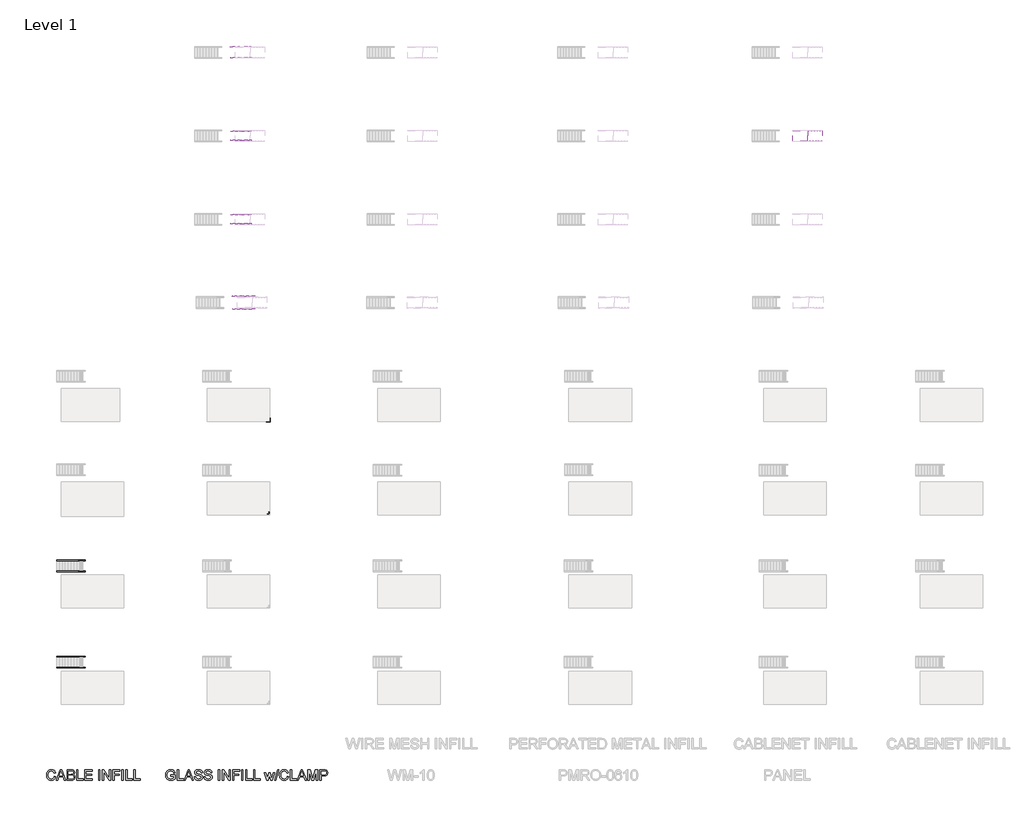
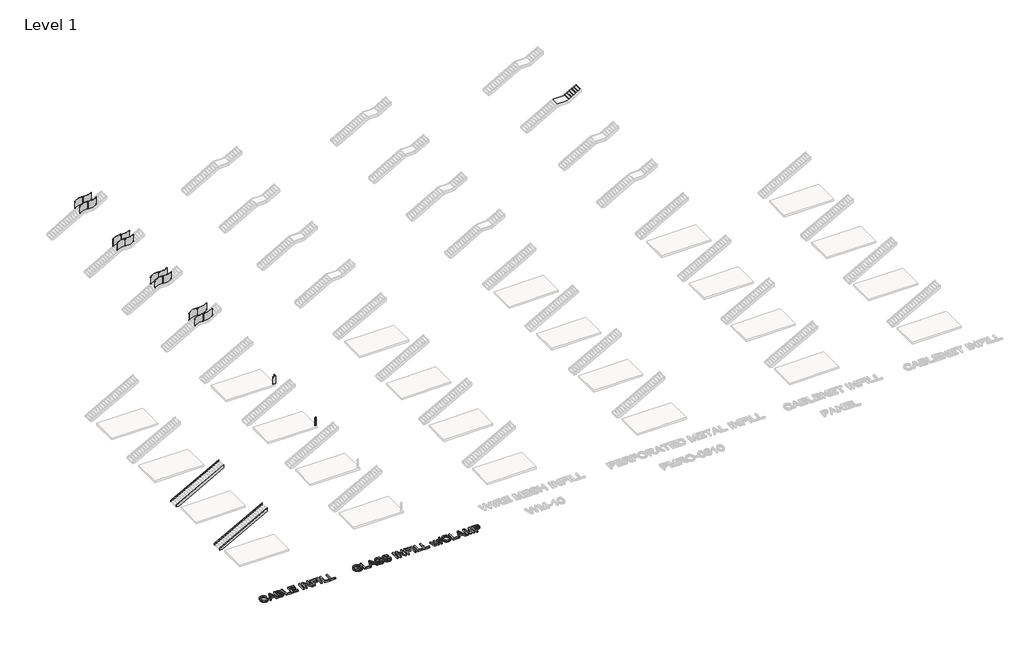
# One storey, part 2 of 8: 18 railings, 4 members, 2 proxies, 1 slab, 1 stair flight.
"""IFC4 building model written with IfcOpenShell, lengths in millimetres."""

from ifc_helpers import new_model, si_unit, frame, origin, origin_with_axes, place, context, project, spatial, polyline, outline, extrude, transform, mapped, element, save
from components import baluster_corner_panel_viva_fascia_glass_309fbe8c, baluster_corner_panel_viva_fascia_glass_9397f638, baluster_corner_panel_viva_standard_glass_66f1dce7, baluster_corner_panel_viva_standard_glass_c882a37e, baluster_landing_panel_viva_beacon_lower_standard_glass_8b22f319, baluster_landing_panel_viva_beacon_lower_standard_glass_e261c89c, baluster_landing_panel_viva_beacon_lower_standard_glass_253f4b5c, baluster_landing_panel_viva_beacon_lower_standard_glass_00d717b1, baluster_landing_panel_viva_beacon_lower_standard_glass_9d3ff82e, baluster_landing_panel_viva_beacon_lower_standard_glass_8f8fe665, baluster_landing_panel_viva_beacon_lower_standard_glass_b56cfc86, baluster_landing_panel_viva_beacon_lower_standard_glass_3bbf7e14, baluster_landing_panel_viva_beacon_upper_standard_glass_71d95eab, baluster_landing_panel_viva_beacon_upper_standard_glass_d6b748e2, baluster_landing_panel_viva_beacon_upper_standard_glass_bbd0a9c9, baluster_landing_panel_viva_beacon_upper_standard_glass_b4abdc5f, baluster_landing_panel_viva_beacon_upper_standard_glass_f7c4560a, baluster_landing_panel_viva_beacon_upper_standard_glass_00105ca9, baluster_landing_panel_viva_beacon_upper_standard_glass_00ee7de6, baluster_landing_panel_viva_beacon_upper_standard_glass_9e54e94a, non_monolithic_landing_eab2c951, stair_flight_992c4a2e

model = new_model("IFC4")

# Units and contexts
model_context = context("Model", 3, world=origin())
ifc_project = project(units=[si_unit("LENGTHUNIT", "METRE", prefix="MILLI")], contexts=[model_context])

# Site, building, storey
site = spatial("IfcSite", under=ifc_project)
building = spatial("IfcBuilding", under=site)
storey = spatial("IfcBuildingStorey", under=building, Name="Level 1", Elevation=0.0)

# Proxies
placement = place(None, origin())
element("IfcBuildingElementProxy", 1, Name="36\" Arial", ObjectType="36\" Arial", at=placement, inside=storey, context=model_context, shape_type="SweptSolid", body=[
    extrude(outline(polyline([(-14746.9317763, -19712.4132169), (-14632.7191161, -19741.8586684), (-14655.3190577, -19812.8860607), (-14685.419782, -19874.948763), (-14723.021289, -19928.0467753), (-14768.1235785, -19972.1800976), (-14819.7088865, -20006.8747027), (-14876.7594487, -20031.6565635), (-14939.2752652, -20046.5256799), (-15007.256336, -20051.4820521), (-15076.9034727, -20047.7316608), (-15139.7329837, -20036.4804869), (-15195.7448688, -20017.7285303), (-15244.939128, -19991.4757911), (-15287.9919472, -19958.1126447), (-15325.5795122, -19918.0294661), (-15357.7018229, -19871.2262556), (-15384.3588793, -19817.7030131), (-15405.292755, -19759.7741064), (-15420.2455233, -19699.7539035), (-15429.2171843, -19637.6424043), (-15432.207738, -19573.4396088), (-15428.826809, -19504.5523097), (-15418.6840221, -19440.2100944), (-15401.7793773, -19380.4129631), (-15378.1128745, -19325.1609157), (-15348.2143088, -19275.3671515), (-15312.6134753, -19231.9448699), (-15271.310374, -19194.894071), (-15224.3050048, -19164.2147548), (-15173.193724, -19140.1578767), (-15119.5728876, -19122.9743923), (-15063.4424958, -19112.6643017), (-15004.8025484, -19109.2276048), (-14939.4774239, -19113.6750949), (-14879.5757277, -19127.0175651), (-14825.0974599, -19149.2550154), (-14776.0426204, -19180.3874459), (-14733.2198438, -19219.59228), (-14697.4377646, -19266.0469411), (-14668.6963829, -19319.7514293), (-14646.9956986, -19380.7057446), (-14761.2083589, -19407.92048), (-14779.1935068, -19363.0064072), (-14800.8035682, -19324.6311206), (-14826.0385432, -19292.7946204), (-14854.8984317, -19267.4969065), (-14887.5505375, -19248.2221259), (-14924.1621642, -19234.4544255), (-14964.7333118, -19226.1938052), (-15009.2639804, -19223.4402651), (-15060.500739, -19226.4935577), (-15107.3597174, -19235.6534353), (-15149.8409156, -19250.9198981), (-15187.9443337, -19272.292946), (-15221.1889734, -19298.8105827), (-15249.0938366, -19329.5108119), (-15271.6589234, -19364.3936337), (-15288.8842336, -19403.459048), (-15301.6202279, -19444.936424), (-15310.7173667, -19487.0551309), (-15316.1756499, -19529.8151686), (-15317.9950777, -19573.2165372), (-15315.8410425, -19627.7575439), (-15309.3789371, -19678.729405), (-15298.6087613, -19726.1321204), (-15283.5305152, -19769.9656903), (-15263.9002142, -19809.358741), (-15239.4738738, -19843.4398992), (-15210.2514939, -19872.2091649), (-15176.2330746, -19895.666538), (-15139.0707399, -19913.8677866), (-15100.4166138, -19926.8686784), (-15060.2706964, -19934.6692135), (-15018.6329877, -19937.2693918), (-14968.9786433, -19933.7281301), (-14923.2977617, -19923.1043451), (-14881.5903431, -19905.3980367), (-14843.8563874, -19880.6092049), (-14810.9881811, -19848.8493855), (-14783.8780104, -19810.2301144), (-14762.5258755, -19764.7513916), (-14746.9317763, -19712.4132169)])), origin_with_axes(), (0.0, 0.0, 1.0), 152.4),
    extrude(outline(polyline([(-14582.0818624, -20037.2054696), (-14217.3597929, -19123.5041874), (-14120.1005744, -19123.5041874), (-13755.378505, -20037.2054696), (-13876.0602417, -20037.2054696), (-13980.6808231, -19751.6738189), (-14357.0026159, -19751.6738189), (-14461.4001256, -20037.2054696), (-14582.0818624, -20037.2054696)]), holes=[polyline([(-14315.0651547, -19637.4611586), (-14022.3952127, -19637.4611586), (-14104.7086339, -19412.8280553), (-14168.7301837, -19237.7168476), (-14225.6134422, -19393.1977543), (-14315.0651547, -19637.4611586)])]), origin_with_axes(), (0.0, 0.0, 1.0), 152.4),
    extrude(outline(polyline([(-13633.3583386, -20037.2054696), (-13633.3583386, -19123.5041874), (-13284.6974246, -19123.5041874), (-13234.1229098, -19125.1841954), (-13188.8045196, -19130.2242194), (-13148.7422541, -19138.6242594), (-13113.9361131, -19150.3843154), (-13083.5007814, -19165.6298652), (-13056.5509435, -19184.4863866), (-13033.0865994, -19206.9538795), (-13013.107749, -19233.032344), (-12997.1511585, -19261.2509017), (-12985.7535938, -19290.1386741), (-12978.915055, -19319.6956614), (-12976.6355421, -19349.9218635), (-12978.5525636, -19377.8406687), (-12984.3036284, -19404.9368974), (-12993.8887363, -19431.2105495), (-13007.3078873, -19456.6616251), (-13024.6029075, -19480.4954316), (-13045.8156227, -19501.9172764), (-13070.9460328, -19520.9271595), (-13099.994138, -19537.5250809), (-13065.5226045, -19552.2199227), (-13035.2754895, -19571.3204286), (-13009.2527929, -19594.8265987), (-12987.4545148, -19622.7384329), (-12970.2292045, -19654.2054707), (-12957.9254114, -19688.3772518), (-12950.5431356, -19725.253776), (-12948.082377, -19764.8350434), (-12949.762385, -19797.2710486), (-12954.802409, -19828.5498698), (-12963.202449, -19858.671507), (-12974.962505, -19887.6359604), (-13005.0492874, -19937.8828387), (-13022.4976692, -19958.1126447), (-13041.5493783, -19975.0800284), (-13086.2473505, -20002.0159243), (-13140.927777, -20021.4789216), (-13207.3752305, -20033.2738326), (-13287.3742838, -20037.2054696), (-13633.3583386, -20037.2054696)]), holes=[polyline([(-13519.1456784, -19494.6953333), (-13310.5737304, -19494.6953333), (-13237.6293165, -19492.2415456), (-13188.7766357, -19484.8801828), (-13146.1420757, -19467.954625), (-13129.3210827, -19456.3339887), (-13115.4976144, -19442.6081142), (-13104.7134966, -19426.8745952), (-13097.0105553, -19409.2310257), (-13092.3887906, -19389.6774056), (-13090.8482023, -19368.2137349), (-13096.5922961, -19328.3954539), (-13113.8245773, -19293.7078198), (-13126.5536006, -19278.9084132), (-13141.7642955, -19266.6325041), (-13159.456662, -19256.8800925), (-13179.6307, -19249.6511784), (-13237.7408523, -19240.7004303), (-13326.4118141, -19237.7168476), (-13519.1456784, -19237.7168476), (-13519.1456784, -19494.6953333)]), polyline([(-13519.1456784, -19922.9928093), (-13284.9204962, -19922.9928093), (-13200.1532874, -19918.5313773), (-13160.8090335, -19908.6325749), (-13128.4357673, -19893.6588936), (-13102.1133182, -19872.2161359), (-13080.921516, -19842.9101041), (-13066.951657, -19807.0513441), (-13062.2950373, -19765.9504014), (-13067.7602915, -19718.2130786), (-13084.1560543, -19677.1679038), (-13096.7805127, -19659.7195219), (-13112.7928712, -19645.073477), (-13132.1931296, -19633.2297692), (-13154.9812879, -19624.1883983), (-13214.7365933, -19612.7280947), (-13296.0740763, -19608.9079935), (-13519.1456784, -19608.9079935), (-13519.1456784, -19922.9928093)])]), origin_with_axes(), (0.0, 0.0, 1.0), 152.4),
    extrude(outline(polyline([(-12791.0399691, -20037.2054696), (-12791.0399691, -19123.5041874), (-12676.8273088, -19123.5041874), (-12676.8273088, -19922.9928093), (-12219.9766677, -19922.9928093), (-12219.9766677, -20037.2054696), (-12791.0399691, -20037.2054696)])), origin_with_axes(), (0.0, 0.0, 1.0), 152.4),
    extrude(outline(polyline([(-12091.4874249, -20037.2054696), (-12091.4874249, -19123.5041874), (-11434.7646283, -19123.5041874), (-11434.7646283, -19237.7168476), (-11977.2747646, -19237.7168476), (-11977.2747646, -19508.9719158), (-11463.3177934, -19508.9719158), (-11463.3177934, -19623.1845761), (-11977.2747646, -19623.1845761), (-11977.2747646, -19922.9928093), (-11420.4880458, -19922.9928093), (-11420.4880458, -20037.2054696), (-12091.4874249, -20037.2054696)])), origin_with_axes(), (0.0, 0.0, 1.0), 152.4),
    extrude(outline(polyline([(-10877.9779095, -20037.2054696), (-10877.9779095, -19123.5041874), (-10763.7652492, -19123.5041874), (-10763.7652492, -20037.2054696), (-10877.9779095, -20037.2054696)])), origin_with_axes(), (0.0, 0.0, 1.0), 152.4),
    extrude(outline(polyline([(-10535.3399287, -20037.2054696), (-10535.3399287, -19123.5041874), (-10413.0966907, -19123.5041874), (-9935.7234622, -19847.3715362), (-9935.7234622, -19123.5041874), (-9821.5108019, -19123.5041874), (-9821.5108019, -20037.2054696), (-9943.7540399, -20037.2054696), (-10421.1272684, -19313.1150492), (-10421.1272684, -20037.2054696), (-10535.3399287, -20037.2054696)])), origin_with_axes(), (0.0, 0.0, 1.0), 152.4),
    extrude(outline(polyline([(-9621.6386465, -20037.2054696), (-9621.6386465, -19123.5041874), (-9007.7455975, -19123.5041874), (-9007.7455975, -19237.7168476), (-9507.4259862, -19237.7168476), (-9507.4259862, -19508.9719158), (-9079.1285101, -19508.9719158), (-9079.1285101, -19623.1845761), (-9507.4259862, -19623.1845761), (-9507.4259862, -20037.2054696), (-9621.6386465, -20037.2054696)])), origin_with_axes(), (0.0, 0.0, 1.0), 152.4),
    extrude(outline(polyline([(-8836.4266071, -20037.2054696), (-8836.4266071, -19123.5041874), (-8722.2139468, -19123.5041874), (-8722.2139468, -20037.2054696), (-8836.4266071, -20037.2054696)])), origin_with_axes(), (0.0, 0.0, 1.0), 152.4),
    extrude(outline(polyline([(-8493.7886262, -20037.2054696), (-8493.7886262, -19123.5041874), (-8379.575966, -19123.5041874), (-8379.575966, -19922.9928093), (-7922.7253249, -19922.9928093), (-7922.7253249, -20037.2054696), (-8493.7886262, -20037.2054696)])), origin_with_axes(), (0.0, 0.0, 1.0), 152.4),
    extrude(outline(polyline([(-7794.236082, -20037.2054696), (-7794.236082, -19123.5041874), (-7680.0234218, -19123.5041874), (-7680.0234218, -19922.9928093), (-7223.1727807, -19922.9928093), (-7223.1727807, -20037.2054696), (-7794.236082, -20037.2054696)])), origin_with_axes(), (0.0, 0.0, 1.0), 152.4),
])
element("IfcBuildingElementProxy", 2, Name="36\" Arial", ObjectType="36\" Arial", at=placement, inside=storey, context=model_context, shape_type="SweptSolid", body=[
    extrude(outline(polyline([(-4532.7860618, -19680.2909062), (-4532.7860618, -19566.0782459), (-4161.5949159, -19566.0782459), (-4161.5949159, -19907.6008688), (-4206.3416851, -19941.1870868), (-4251.799495, -19970.3397568), (-4297.9683457, -19995.0588788), (-4344.8482371, -20015.3444526), (-4392.3834013, -20031.1546524), (-4440.5180704, -20042.4476522), (-4489.2522445, -20049.2234521), (-4538.5859235, -20051.4820521), (-4604.1898875, -20047.8919935), (-4666.7126749, -20037.1218177), (-4726.1542859, -20019.1715247), (-4782.5147204, -19994.0411146), (-4833.9745506, -19962.1070205), (-4878.7143488, -19923.745676), (-4916.734115, -19878.9570808), (-4948.0338491, -19827.7412352), (-4972.4811025, -19771.7363211), (-4989.9434264, -19712.5805206), (-5000.4208207, -19650.2738338), (-5003.9132855, -19584.8162605), (-5000.4347627, -19519.3517163), (-4989.9991943, -19456.13183), (-4972.6065803, -19395.1566018), (-4948.2569207, -19336.4260316), (-4917.3824168, -19282.5193847), (-4880.4152697, -19236.0159267), (-4837.3554796, -19196.9156574), (-4788.2030462, -19165.218577), (-4734.0245309, -19140.7225267), (-4675.8864946, -19123.2253479), (-4613.7889373, -19112.7270406), (-4547.7318592, -19109.2276048), (-4499.5065672, -19111.2561622), (-4453.651411, -19117.3418344), (-4410.1663905, -19127.4846213), (-4369.0515059, -19141.6845229), (-4331.2757243, -19159.5023672), (-4297.808013, -19180.4989817), (-4268.648372, -19204.6743666), (-4243.7968013, -19232.0285218), (-4222.4586084, -19263.1818652), (-4203.8391006, -19298.7548148), (-4187.9382779, -19338.7473704), (-4174.7561405, -19383.1595322), (-4280.0459366, -19412.8280553), (-4303.5521067, -19352.6266067), (-4332.1331557, -19307.2036517), (-4349.365437, -19289.1348519), (-4369.9437923, -19272.9621608), (-4393.8682216, -19258.6855782), (-4421.138725, -19246.3051043), (-4450.8699869, -19236.3017372), (-4482.1766921, -19229.1564749), (-4549.516432, -19223.4402651), (-4590.3594481, -19224.9808534), (-4628.3443594, -19229.6026181), (-4663.4711657, -19237.3055594), (-4695.7398672, -19248.0896771), (-4751.4519998, -19276.5870743), (-4774.8326921, -19293.7217617), (-4795.2298017, -19312.7804417), (-4828.8299618, -19354.8015548), (-4854.0091689, -19400.7821888), (-4869.624181, -19443.0263734), (-4880.7777611, -19486.999363), (-4887.4699092, -19532.7011575), (-4889.7006252, -19580.1317569), (-4887.016795, -19637.1614061), (-4878.9653043, -19689.35319), (-4865.5461533, -19736.7071086), (-4846.7593418, -19779.2231617), (-4822.8488544, -19816.7410168), (-4794.0586758, -19849.1003411), (-4760.3888058, -19876.3011346), (-4721.8392446, -19898.3433973), (-4680.2154779, -19915.3735199), (-4637.3229914, -19927.5378932), (-4593.1617851, -19934.8365172), (-4547.7318592, -19937.2693918), (-4507.9344912, -19935.4360221), (-4468.6250923, -19929.9359129), (-4429.8036625, -19920.7690643), (-4391.4702019, -19907.9354762), (-4324.4650694, -19877.6256222), (-4275.8075762, -19845.3638918), (-4275.8075762, -19680.2909062), (-4532.7860618, -19680.2909062)])), origin_with_axes(), (0.0, 0.0, 1.0), 152.4),
    extrude(outline(polyline([(-3975.999343, -20037.2054696), (-3975.999343, -19123.5041874), (-3861.7866827, -19123.5041874), (-3861.7866827, -19922.9928093), (-3404.9360416, -19922.9928093), (-3404.9360416, -20037.2054696), (-3975.999343, -20037.2054696)])), origin_with_axes(), (0.0, 0.0, 1.0), 152.4),
    extrude(outline(polyline([(-3382.851953, -20037.2054696), (-3018.1298836, -19123.5041874), (-2920.870665, -19123.5041874), (-2556.1485956, -20037.2054696), (-2676.8303323, -20037.2054696), (-2781.4509137, -19751.6738189), (-3157.7727065, -19751.6738189), (-3262.1702163, -20037.2054696), (-3382.851953, -20037.2054696)]), holes=[polyline([(-3115.8352453, -19637.4611586), (-2823.1653033, -19637.4611586), (-2905.4787245, -19412.8280553), (-2969.5002743, -19237.7168476), (-3026.3835328, -19393.1977543), (-3115.8352453, -19637.4611586)])]), origin_with_axes(), (0.0, 0.0, 1.0), 152.4),
    extrude(outline(polyline([(-2476.9581769, -19723.1206538), (-2362.7455166, -19723.1206538), (-2357.5172759, -19756.3652935), (-2349.64006, -19786.5008728), (-2339.1138687, -19813.5273916), (-2325.9387022, -19837.4448499), (-2309.4453457, -19858.7342459), (-2288.9645842, -19877.8765778), (-2264.4964178, -19894.8718455), (-2236.0408466, -19909.720049), (-2204.6435186, -19921.7728865), (-2171.350082, -19930.3820561), (-2136.1605368, -19935.5475579), (-2099.0748829, -19937.2693918), (-2035.4437084, -19932.0550931), (-1979.7315758, -19916.412197), (-1955.507394, -19905.0076614), (-1934.5874603, -19891.6512492), (-1916.9717747, -19876.3429605), (-1902.6603373, -19859.0827953), (-1883.6713671, -19821.690418), (-1878.9241246, -19802.3041016), (-1877.3417104, -19782.4577), (-1882.081982, -19744.2288042), (-1896.3027966, -19711.1863231), (-1908.2650113, -19696.5263363), (-1925.1905691, -19682.9956494), (-1947.07947, -19670.5942625), (-1973.9317141, -19659.3221756), (-2034.2446985, -19641.3927956), (-2140.2315935, -19615.7116774), (-2249.3972588, -19586.8517889), (-2289.2364527, -19572.9446687), (-2319.2465542, -19559.3860979), (-2349.7446248, -19541.1918203), (-2376.1019288, -19520.9620144), (-2398.3184661, -19498.6966801), (-2416.3942369, -19474.3958175), (-2430.3989509, -19448.310382), (-2440.4023181, -19420.6913293), (-2446.4043384, -19391.5386593), (-2448.4050118, -19360.852372), (-2445.9303112, -19326.8409237), (-2438.5062095, -19293.9587753), (-2426.1327065, -19262.205927), (-2408.8098024, -19231.5823786), (-2386.7326848, -19203.335937), (-2360.0965413, -19178.7144089), (-2328.901372, -19157.7177943), (-2293.1471767, -19140.3460933), (-2254.0399365, -19126.7317546), (-2212.7856321, -19117.007227), (-2169.3842635, -19111.1725104), (-2123.8358307, -19109.2276048), (-2074.1466314, -19111.2631332), (-2027.4688986, -19117.3697183), (-1983.8026325, -19127.5473602), (-1943.147833, -19141.7960587), (-1906.2573668, -19159.9903363), (-1873.8841006, -19182.004715), (-1846.0280343, -19207.8391949), (-1822.6891679, -19237.493776), (-1804.0487472, -19270.1040559), (-1790.2880177, -19304.805632), (-1781.4069795, -19341.5985043), (-1777.4056327, -19380.482673), (-1891.618293, -19380.482673), (-1899.2584953, -19344.03835), (-1912.5870235, -19312.3342985), (-1931.6038776, -19285.3705186), (-1956.3090576, -19263.1470103), (-1987.1626485, -19245.7753093), (-2024.6247357, -19233.3669514), (-2068.6953191, -19225.9219367), (-2119.3743987, -19223.4402651), (-2171.6707474, -19225.8940527), (-2216.3547777, -19233.2554156), (-2253.4264896, -19245.5243537), (-2282.885883, -19262.7008671), (-2305.332463, -19283.3489322), (-2321.3657344, -19306.0325258), (-2330.9856972, -19330.7516477), (-2334.1923515, -19357.506298), (-2331.9198096, -19380.5244989), (-2325.1021837, -19401.3956357), (-2313.739474, -19420.1197083), (-2297.8316804, -19436.6967167), (-2272.791893, -19452.3953807), (-2233.3639874, -19468.2613484), (-2179.5479634, -19484.2946198), (-2111.343821, -19500.4951949), (-1985.4199016, -19531.1117723), (-1941.1123047, -19544.9561536), (-1909.2409495, -19557.8245967), (-1874.225679, -19577.3294199), (-1844.1319257, -19599.2601467), (-1818.9596896, -19623.6167773), (-1798.7089707, -19650.3993115), (-1783.1427554, -19679.4683297), (-1772.0240303, -19710.684412), (-1765.3527952, -19744.0475585), (-1763.1290501, -19779.5577691), (-1765.6874026, -19815.2840804), (-1773.3624599, -19849.9647436), (-1786.1542221, -19883.5997586), (-1804.0626891, -19916.1891254), (-1826.7741666, -19946.4710954), (-1853.9749601, -19973.1839198), (-1885.6650696, -19996.3275985), (-1921.844495, -20015.9021316), (-1961.4606174, -20031.4683468), (-2003.4608175, -20042.587072), (-2047.8450953, -20049.2583071), (-2094.6134509, -20051.4820521), (-2153.0372977, -20049.0840324), (-2206.5117433, -20041.8899732), (-2255.0367877, -20029.8998746), (-2298.612431, -20013.1137365), (-2337.5035706, -19991.5036751), (-2371.9751041, -19965.0418063), (-2402.0270315, -19933.7281301), (-2427.6593528, -19897.5626467), (-2448.307418, -19857.7164817), (-2463.406577, -19815.3607613), (-2472.95683, -19770.4954853), (-2476.9581769, -19723.1206538)])), origin_with_axes(), (0.0, 0.0, 1.0), 152.4),
    extrude(outline(polyline([(-1634.6398073, -19723.1206538), (-1520.4271471, -19723.1206538), (-1515.1989064, -19756.3652935), (-1507.3216904, -19786.5008728), (-1496.7954992, -19813.5273916), (-1483.6203327, -19837.4448499), (-1467.1269761, -19858.7342459), (-1446.6462147, -19877.8765778), (-1422.1780483, -19894.8718455), (-1393.7224771, -19909.720049), (-1362.3251491, -19921.7728865), (-1329.0317125, -19930.3820561), (-1293.8421672, -19935.5475579), (-1256.7565134, -19937.2693918), (-1193.1253389, -19932.0550931), (-1137.4132062, -19916.412197), (-1113.1890245, -19905.0076614), (-1092.2690908, -19891.6512492), (-1074.6534052, -19876.3429605), (-1060.3419677, -19859.0827953), (-1041.3529976, -19821.690418), (-1036.6057551, -19802.3041016), (-1035.0233409, -19782.4577), (-1039.7636124, -19744.2288042), (-1053.9844271, -19711.1863231), (-1065.9466417, -19696.5263363), (-1082.8721995, -19682.9956494), (-1104.7611005, -19670.5942625), (-1131.6133446, -19659.3221756), (-1191.926329, -19641.3927956), (-1297.913224, -19615.7116774), (-1407.0788892, -19586.8517889), (-1446.9180832, -19572.9446687), (-1476.9281846, -19559.3860979), (-1507.4262552, -19541.1918203), (-1533.7835592, -19520.9620144), (-1556.0000966, -19498.6966801), (-1574.0758674, -19474.3958175), (-1588.0805814, -19448.310382), (-1598.0839485, -19420.6913293), (-1604.0859688, -19391.5386593), (-1606.0866423, -19360.852372), (-1603.6119417, -19326.8409237), (-1596.1878399, -19293.9587753), (-1583.814337, -19262.205927), (-1566.4914329, -19231.5823786), (-1544.4143153, -19203.335937), (-1517.7781718, -19178.7144089), (-1486.5830024, -19157.7177943), (-1450.8288072, -19140.3460933), (-1411.721567, -19126.7317546), (-1370.4672625, -19117.007227), (-1327.065894, -19111.1725104), (-1281.5174612, -19109.2276048), (-1231.8282618, -19111.2631332), (-1185.1505291, -19117.3697183), (-1141.484263, -19127.5473602), (-1100.8294635, -19141.7960587), (-1063.9389973, -19159.9903363), (-1031.5657311, -19182.004715), (-1003.7096647, -19207.8391949), (-980.3707984, -19237.493776), (-961.7303776, -19270.1040559), (-947.9696482, -19304.805632), (-939.08861, -19341.5985043), (-935.0872631, -19380.482673), (-1049.2999234, -19380.482673), (-1056.9401258, -19344.03835), (-1070.268654, -19312.3342985), (-1089.2855081, -19285.3705186), (-1113.990688, -19263.1470103), (-1144.844279, -19245.7753093), (-1182.3063662, -19233.3669514), (-1226.3769496, -19225.9219367), (-1277.0560292, -19223.4402651), (-1329.3523779, -19225.8940527), (-1374.0364082, -19233.2554156), (-1411.1081201, -19245.5243537), (-1440.5675135, -19262.7008671), (-1463.0140935, -19283.3489322), (-1479.0473649, -19306.0325258), (-1488.6673277, -19330.7516477), (-1491.873982, -19357.506298), (-1489.60144, -19380.5244989), (-1482.7838142, -19401.3956357), (-1471.4211045, -19420.1197083), (-1455.5133108, -19436.6967167), (-1430.4735235, -19452.3953807), (-1391.0456178, -19468.2613484), (-1337.2295938, -19484.2946198), (-1269.0254515, -19500.4951949), (-1143.1015321, -19531.1117723), (-1098.7939351, -19544.9561536), (-1066.92258, -19557.8245967), (-1031.9073094, -19577.3294199), (-1001.8135561, -19599.2601467), (-976.64132, -19623.6167773), (-956.3906011, -19650.3993115), (-940.8243859, -19679.4683297), (-929.7056607, -19710.684412), (-923.0344256, -19744.0475585), (-920.8106806, -19779.5577691), (-923.369033, -19815.2840804), (-931.0440904, -19849.9647436), (-943.8358525, -19883.5997586), (-961.7443196, -19916.1891254), (-984.4557971, -19946.4710954), (-1011.6565906, -19973.1839198), (-1043.3467, -19996.3275985), (-1079.5261255, -20015.9021316), (-1119.1422478, -20031.4683468), (-1161.1424479, -20042.587072), (-1205.5267258, -20049.2583071), (-1252.2950813, -20051.4820521), (-1310.7189281, -20049.0840324), (-1364.1933737, -20041.8899732), (-1412.7184182, -20029.8998746), (-1456.2940615, -20013.1137365), (-1495.1852011, -19991.5036751), (-1529.6567346, -19965.0418063), (-1559.708662, -19933.7281301), (-1585.3409833, -19897.5626467), (-1605.9890484, -19857.7164817), (-1621.0882075, -19815.3607613), (-1630.6384605, -19770.4954853), (-1634.6398073, -19723.1206538)])), origin_with_axes(), (0.0, 0.0, 1.0), 152.4),
    extrude(outline(polyline([(-378.3005443, -20037.2054696), (-378.3005443, -19123.5041874), (-264.087884, -19123.5041874), (-264.087884, -20037.2054696), (-378.3005443, -20037.2054696)])), origin_with_axes(), (0.0, 0.0, 1.0), 152.4),
    extrude(outline(polyline([(-35.6625635, -20037.2054696), (-35.6625635, -19123.5041874), (86.5806745, -19123.5041874), (563.953903, -19847.3715362), (563.953903, -19123.5041874), (678.1665632, -19123.5041874), (678.1665632, -20037.2054696), (555.9233253, -20037.2054696), (78.5500968, -19313.1150492), (78.5500968, -20037.2054696), (-35.6625635, -20037.2054696)])), origin_with_axes(), (0.0, 0.0, 1.0), 152.4),
    extrude(outline(polyline([(878.0387187, -20037.2054696), (878.0387187, -19123.5041874), (1491.9317677, -19123.5041874), (1491.9317677, -19237.7168476), (992.251379, -19237.7168476), (992.251379, -19508.9719158), (1420.548855, -19508.9719158), (1420.548855, -19623.1845761), (992.251379, -19623.1845761), (992.251379, -20037.2054696), (878.0387187, -20037.2054696)])), origin_with_axes(), (0.0, 0.0, 1.0), 152.4),
    extrude(outline(polyline([(1663.2507581, -20037.2054696), (1663.2507581, -19123.5041874), (1777.4634184, -19123.5041874), (1777.4634184, -20037.2054696), (1663.2507581, -20037.2054696)])), origin_with_axes(), (0.0, 0.0, 1.0), 152.4),
    extrude(outline(polyline([(2005.888739, -20037.2054696), (2005.888739, -19123.5041874), (2120.1013992, -19123.5041874), (2120.1013992, -19922.9928093), (2576.9520403, -19922.9928093), (2576.9520403, -20037.2054696), (2005.888739, -20037.2054696)])), origin_with_axes(), (0.0, 0.0, 1.0), 152.4),
    extrude(outline(polyline([(2705.4412831, -20037.2054696), (2705.4412831, -19123.5041874), (2819.6539434, -19123.5041874), (2819.6539434, -19922.9928093), (3276.5045845, -19922.9928093), (3276.5045845, -20037.2054696), (2705.4412831, -20037.2054696)])), origin_with_axes(), (0.0, 0.0, 1.0), 152.4),
    extrude(outline(polyline([(3858.9445376, -20037.2054696), (3654.8340217, -19366.2060905), (3773.508114, -19366.2060905), (3889.2822755, -19757.6967521), (3923.8583738, -19897.5626467), (3952.1884673, -19762.827399), (4044.317039, -19366.2060905), (4180.3907162, -19366.2060905), (4272.0731447, -19761.712041), (4297.2802357, -19883.7322073), (4333.4178353, -19755.0198929), (4449.4150684, -19366.2060905), (4568.5353039, -19366.2060905), (4362.8632868, -20037.2054696), (4224.7819651, -20037.2054696), (4137.1148254, -19643.7071635), (4111.6846628, -19521.0177823), (3998.5873605, -20037.2054696), (3858.9445376, -20037.2054696)])), origin_with_axes(), (0.0, 0.0, 1.0), 152.4),
    extrude(outline(polyline([(4561.3970126, -20037.2054696), (4818.3754982, -19123.5041874), (4921.4345784, -19123.5041874), (4664.4560928, -20037.2054696), (4561.3970126, -20037.2054696)])), origin_with_axes(), (0.0, 0.0, 1.0), 152.4),
    extrude(outline(polyline([(5660.6938678, -19712.4132169), (5774.906528, -19741.8586684), (5752.3065864, -19812.8860607), (5722.2058621, -19874.948763), (5684.6043551, -19928.0467753), (5639.5020656, -19972.1800976), (5587.9167576, -20006.8747027), (5530.8661954, -20031.6565635), (5468.3503789, -20046.5256799), (5400.3693081, -20051.4820521), (5330.7221714, -20047.7316608), (5267.8926604, -20036.4804869), (5211.8807753, -20017.7285303), (5162.6865161, -19991.4757911), (5119.6336969, -19958.1126447), (5082.0461319, -19918.0294661), (5049.9238212, -19871.2262556), (5023.2667648, -19817.7030131), (5002.3328891, -19759.7741064), (4987.3801208, -19699.7539035), (4978.4084598, -19637.6424043), (4975.4179061, -19573.4396088), (4978.7988351, -19504.5523097), (4988.941622, -19440.2100944), (5005.8462668, -19380.4129631), (5029.5127696, -19325.1609157), (5059.4113353, -19275.3671515), (5095.0121688, -19231.9448699), (5136.3152701, -19194.894071), (5183.3206393, -19164.2147548), (5234.4319201, -19140.1578767), (5288.0527565, -19122.9743923), (5344.1831483, -19112.6643017), (5402.8230957, -19109.2276048), (5468.1482202, -19113.6750949), (5528.0499164, -19127.0175651), (5582.5281842, -19149.2550154), (5631.5830237, -19180.3874459), (5674.4058003, -19219.59228), (5710.1878795, -19266.0469411), (5738.9292612, -19319.7514293), (5760.6299455, -19380.7057446), (5646.4172852, -19407.92048), (5628.4321373, -19363.0064072), (5606.8220759, -19324.6311206), (5581.5871009, -19292.7946204), (5552.7272124, -19267.4969065), (5520.0751066, -19248.2221259), (5483.4634799, -19234.4544255), (5442.8923323, -19226.1938052), (5398.3616637, -19223.4402651), (5347.1249051, -19226.4935577), (5300.2659267, -19235.6534353), (5257.7847285, -19250.9198981), (5219.6813104, -19272.292946), (5186.4366707, -19298.8105827), (5158.5318075, -19329.5108119), (5135.9667207, -19364.3936337), (5118.7414105, -19403.459048), (5106.0054162, -19444.936424), (5096.9082774, -19487.0551309), (5091.4499941, -19529.8151686), (5089.6305664, -19573.2165372), (5091.7846016, -19627.7575439), (5098.246707, -19678.729405), (5109.0168828, -19726.1321204), (5124.0951289, -19769.9656903), (5143.7254299, -19809.358741), (5168.1517703, -19843.4398992), (5197.3741502, -19872.2091649), (5231.3925695, -19895.666538), (5268.5549042, -19913.8677866), (5307.2090303, -19926.8686784), (5347.3549477, -19934.6692135), (5388.9926564, -19937.2693918), (5438.6470008, -19933.7281301), (5484.3278824, -19923.1043451), (5526.035301, -19905.3980367), (5563.7692567, -19880.6092049), (5596.637463, -19848.8493855), (5623.7476337, -19810.2301144), (5645.0997686, -19764.7513916), (5660.6938678, -19712.4132169)])), origin_with_axes(), (0.0, 0.0, 1.0), 152.4),
    extrude(outline(polyline([(5931.9489359, -20037.2054696), (5931.9489359, -19123.5041874), (6046.1615962, -19123.5041874), (6046.1615962, -19922.9928093), (6503.0122373, -19922.9928093), (6503.0122373, -20037.2054696), (5931.9489359, -20037.2054696)])), origin_with_axes(), (0.0, 0.0, 1.0), 152.4),
    extrude(outline(polyline([(6525.0963259, -20037.2054696), (6889.8183953, -19123.5041874), (6987.0776139, -19123.5041874), (7351.7996833, -20037.2054696), (7231.1179466, -20037.2054696), (7126.4973652, -19751.6738189), (6750.1755724, -19751.6738189), (6645.7780627, -20037.2054696), (6525.0963259, -20037.2054696)]), holes=[polyline([(6792.1130336, -19637.4611586), (7084.7829756, -19637.4611586), (7002.4695544, -19412.8280553), (6938.4480046, -19237.7168476), (6881.5647461, -19393.1977543), (6792.1130336, -19637.4611586)])]), origin_with_axes(), (0.0, 0.0, 1.0), 152.4),
    extrude(outline(polyline([(7473.8198496, -20037.2054696), (7473.8198496, -19123.5041874), (7670.3459311, -19123.5041874), (7857.2799337, -19767.5119026), (7894.9790344, -19902.0240787), (7935.8011376, -19756.3583225), (8119.6121377, -19123.5041874), (8316.1382192, -19123.5041874), (8316.1382192, -20037.2054696), (8201.9255589, -20037.2054696), (8201.9255589, -19237.7168476), (7972.3848803, -20037.2054696), (7817.5731885, -20037.2054696), (7588.0325099, -19237.7168476), (7588.0325099, -20037.2054696), (7473.8198496, -20037.2054696)])), origin_with_axes(), (0.0, 0.0, 1.0), 152.4),
    extrude(outline(polyline([(8516.0103747, -20037.2054696), (8516.0103747, -19123.5041874), (8854.6330667, -19123.5041874), (8933.488878, -19125.6791355), (8991.1528871, -19132.2039798), (9052.0235506, -19148.4603229), (9078.4226805, -19160.4155665), (9102.1310092, -19174.9221917), (9123.3994922, -19192.2799507), (9142.4790852, -19212.7885961), (9159.3697881, -19236.4481279), (9174.0716009, -19263.2585461), (9185.9780476, -19292.3345352), (9194.4826525, -19322.7907799), (9199.5854154, -19354.6272801), (9201.2863363, -19387.8440359), (9196.6924555, -19443.9326018), (9182.9108131, -19495.5318518), (9159.9414091, -19542.6417857), (9127.7842434, -19585.2624037), (9107.5596658, -19604.188635), (9083.6369792, -19620.5913687), (9056.0161837, -19634.4706049), (9024.6972793, -19645.8263437), (8989.680266, -19654.6585849), (8950.9651438, -19660.9673287), (8862.4405727, -19666.0143237), (8630.2230349, -19666.0143237), (8630.2230349, -20037.2054696), (8516.0103747, -20037.2054696)]), holes=[polyline([(8630.2230349, -19551.8016634), (8869.1327208, -19551.8016634), (8924.0641028, -19549.1805721), (8970.4072281, -19541.3172981), (9008.1620968, -19528.2118415), (9037.3287088, -19509.8642022), (9059.092132, -19486.7623494), (9074.6374342, -19459.3942522), (9083.9646156, -19427.7599107), (9087.073676, -19391.8593247), (9085.2403063, -19365.2022682), (9079.7401971, -19340.5528562), (9070.5733485, -19317.9110886), (9057.7397604, -19297.2769654), (9041.9225896, -19279.3197014), (9023.8049929, -19264.7085115), (9003.3869703, -19253.4433956), (8980.6685218, -19245.5243537), (8936.6118804, -19239.6687242), (8866.4558616, -19237.7168476), (8630.2230349, -19237.7168476), (8630.2230349, -19551.8016634)])]), origin_with_axes(), (0.0, 0.0, 1.0), 152.4),
])

# Members
element("IfcMember", 3, ObjectType="Stringer - 2\" Width", at=placement, inside=storey, context=model_context, shape_type="SweptSolid", body=[
    extrude(outline(polyline([(177.1989729, -14533.3213318), (0.0, -14533.3213318), (0.0, -14248.1856972), (2753.9260175, -9199.3213318), (3086.6535184, -9199.3213318), (177.1989729, -14533.3213318)])), frame((0.0, -9222.435031, 0.0), z_axis=(0.0, 1.0, 0.0), x_axis=(0.0, 0.0, 1.0)), (0.0, 0.0, 1.0), 50.8),
])
element("IfcMember", 4, ObjectType="Stringer - 2\" Width", at=placement, inside=storey, context=model_context, shape_type="SweptSolid", body=[
    extrude(outline(polyline([(177.1989729, -14533.3213318), (0.0, -14533.3213318), (0.0, -14248.1856972), (2753.9260175, -9199.3213318), (3086.6535184, -9199.3213318), (177.1989729, -14533.3213318)])), frame((0.0, -10187.635031, 0.0), z_axis=(0.0, 1.0, 0.0), x_axis=(0.0, 0.0, 1.0)), (0.0, 0.0, 1.0), 50.8),
])
element("IfcMember", 5, ObjectType="Stringer - 2\" Width", at=placement, inside=storey, context=model_context, shape_type="SweptSolid", body=[
    extrude(outline(polyline([(177.1989729, -14533.3213318), (0.0, -14533.3213318), (0.0, -14248.1856972), (2753.9260175, -9199.3213318), (3086.6535184, -9199.3213318), (177.1989729, -14533.3213318)])), frame((0.0, -789.635031, 0.0), z_axis=(0.0, 1.0, 0.0), x_axis=(0.0, 0.0, 1.0)), (0.0, 0.0, 1.0), 50.8),
])
element("IfcMember", 6, ObjectType="Stringer - 2\" Width", at=placement, inside=storey, context=model_context, shape_type="SweptSolid", body=[
    extrude(outline(polyline([(177.1989729, -14533.3213318), (0.0, -14533.3213318), (0.0, -14248.1856972), (2753.9260175, -9199.3213318), (3086.6535184, -9199.3213318), (177.1989729, -14533.3213318)])), frame((0.0, -1754.835031, 0.0), z_axis=(0.0, 1.0, 0.0), x_axis=(0.0, 0.0, 1.0)), (0.0, 0.0, 1.0), 50.8),
])

# Railings
baluster_corner_panel_viva_fascia_glass_shape = baluster_corner_panel_viva_fascia_glass_309fbe8c(model_context)
baluster_corner_panel_viva_fascia_glass_2_shape = baluster_corner_panel_viva_fascia_glass_9397f638(model_context)
element("IfcRailing", 7, ObjectType="Baluster-Corner-Panel-VIVA : Fascia_Glass", at=placement, inside=storey, context=model_context, shape_type="MappedRepresentation", body=[
    mapped(baluster_corner_panel_viva_fascia_glass_shape, transform((4151.6996559, 11401.5978065, 0.0), x_axis=(1.0, 0.0, 0.0), y_axis=(0.0, 1.0, 0.0), z_axis=(0.0, 0.0, 1.0))),
    mapped(baluster_corner_panel_viva_fascia_glass_2_shape, transform((4151.6996559, 11401.5978065, 0.0), x_axis=(1.0, 0.0, 0.0), y_axis=(0.0, 1.0, 0.0), z_axis=(0.0, 0.0, 1.0))),
])
baluster_corner_panel_viva_standard_glass_shape = baluster_corner_panel_viva_standard_glass_66f1dce7(model_context)
baluster_corner_panel_viva_standard_glass_2_shape = baluster_corner_panel_viva_standard_glass_c882a37e(model_context)
element("IfcRailing", 8, ObjectType="Baluster-Corner-Panel-VIVA : Standard_Glass", at=placement, inside=storey, context=model_context, shape_type="MappedRepresentation", body=[
    mapped(baluster_corner_panel_viva_standard_glass_shape, transform((4037.3996559, 3337.0978065, 0.0), x_axis=(1.0, 0.0, 0.0), y_axis=(0.0, 1.0, 0.0), z_axis=(0.0, 0.0, 1.0))),
    mapped(baluster_corner_panel_viva_standard_glass_2_shape, transform((4037.3996559, 3337.0978065, 0.0), x_axis=(1.0, 0.0, 0.0), y_axis=(0.0, 1.0, 0.0), z_axis=(0.0, 0.0, 1.0))),
])
baluster_landing_panel_viva_beacon_lower_standard_glass_shape = baluster_landing_panel_viva_beacon_lower_standard_glass_8b22f319(model_context)
baluster_landing_panel_viva_beacon_lower_standard_glass_2_shape = baluster_landing_panel_viva_beacon_lower_standard_glass_e261c89c(model_context)
element("IfcRailing", 9, ObjectType="Baluster-Landing-Panel-VIVA-BEACON-Lower : Standard_Glass", at=placement, inside=storey, context=model_context, shape_type="MappedRepresentation", body=[
    mapped(baluster_landing_panel_viva_beacon_lower_standard_glass_shape, transform((857.1994838, 21245.7436122, 2117.1090964), x_axis=(0.0, 1.0, 0.0), y_axis=(-1.0, 0.0, 0.0), z_axis=(0.0, 0.0, 1.0))),
    mapped(baluster_landing_panel_viva_beacon_lower_standard_glass_2_shape, transform((857.1994838, 21245.7436122, 2117.1090964), x_axis=(0.0, 1.0, 0.0), y_axis=(-1.0, 0.0, 0.0), z_axis=(0.0, 0.0, 1.0))),
])
baluster_landing_panel_viva_beacon_lower_standard_glass_3_shape = baluster_landing_panel_viva_beacon_lower_standard_glass_253f4b5c(model_context)
baluster_landing_panel_viva_beacon_lower_standard_glass_4_shape = baluster_landing_panel_viva_beacon_lower_standard_glass_00d717b1(model_context)
element("IfcRailing", 10, ObjectType="Baluster-Landing-Panel-VIVA-BEACON-Lower : Standard_Glass", at=placement, inside=storey, context=model_context, shape_type="MappedRepresentation", body=[
    mapped(baluster_landing_panel_viva_beacon_lower_standard_glass_3_shape, transform((857.1994838, 22439.3287426, 2117.1090964), x_axis=(0.0, -1.0, 0.0), y_axis=(1.0, 0.0, 0.0), z_axis=(0.0, 0.0, 1.0))),
    mapped(baluster_landing_panel_viva_beacon_lower_standard_glass_4_shape, transform((857.1994838, 22439.3287426, 2117.1090964), x_axis=(0.0, -1.0, 0.0), y_axis=(1.0, 0.0, 0.0), z_axis=(0.0, 0.0, 1.0))),
])
baluster_landing_panel_viva_beacon_lower_standard_glass_5_shape = baluster_landing_panel_viva_beacon_lower_standard_glass_9d3ff82e(model_context)
baluster_landing_panel_viva_beacon_lower_standard_glass_6_shape = baluster_landing_panel_viva_beacon_lower_standard_glass_8f8fe665(model_context)
element("IfcRailing", 11, ObjectType="Baluster-Landing-Panel-VIVA-BEACON-Lower : Standard_Glass", at=placement, inside=storey, context=model_context, shape_type="MappedRepresentation", body=[
    mapped(baluster_landing_panel_viva_beacon_lower_standard_glass_5_shape, transform((690.3634814, 28725.9659155, 2117.1090964), x_axis=(0.0, 1.0, 0.0), y_axis=(-1.0, 0.0, 0.0), z_axis=(0.0, 0.0, 1.0))),
    mapped(baluster_landing_panel_viva_beacon_lower_standard_glass_6_shape, transform((690.3634814, 28725.9659155, 2117.1090964), x_axis=(0.0, 1.0, 0.0), y_axis=(-1.0, 0.0, 0.0), z_axis=(0.0, 0.0, 1.0))),
])
element("IfcRailing", 12, ObjectType="Baluster-Landing-Panel-VIVA-BEACON-Lower : Standard_Glass", at=placement, inside=storey, context=model_context, shape_type="MappedRepresentation", body=[
    mapped(baluster_landing_panel_viva_beacon_lower_standard_glass_5_shape, transform((690.3634814, 36041.5808481, 2117.1090964), x_axis=(0.0, 1.0, 0.0), y_axis=(-1.0, 0.0, 0.0), z_axis=(0.0, 0.0, 1.0))),
    mapped(baluster_landing_panel_viva_beacon_lower_standard_glass_6_shape, transform((690.3634814, 36041.5808481, 2117.1090964), x_axis=(0.0, 1.0, 0.0), y_axis=(-1.0, 0.0, 0.0), z_axis=(0.0, 0.0, 1.0))),
])
element("IfcRailing", 13, ObjectType="Baluster-Landing-Panel-VIVA-BEACON-Lower : Standard_Glass", at=placement, inside=storey, context=model_context, shape_type="MappedRepresentation", body=[
    mapped(baluster_landing_panel_viva_beacon_lower_standard_glass_5_shape, transform((690.3634814, 43267.5085366, 2117.1090964), x_axis=(0.0, 1.0, 0.0), y_axis=(-1.0, 0.0, 0.0), z_axis=(0.0, 0.0, 1.0))),
    mapped(baluster_landing_panel_viva_beacon_lower_standard_glass_6_shape, transform((690.3634814, 43267.5085366, 2117.1090964), x_axis=(0.0, 1.0, 0.0), y_axis=(-1.0, 0.0, 0.0), z_axis=(0.0, 0.0, 1.0))),
])
baluster_landing_panel_viva_beacon_lower_standard_glass_7_shape = baluster_landing_panel_viva_beacon_lower_standard_glass_b56cfc86(model_context)
baluster_landing_panel_viva_beacon_lower_standard_glass_8_shape = baluster_landing_panel_viva_beacon_lower_standard_glass_3bbf7e14(model_context)
element("IfcRailing", 14, ObjectType="Baluster-Landing-Panel-VIVA-BEACON-Lower : Standard_Glass", at=placement, inside=storey, context=model_context, shape_type="MappedRepresentation", body=[
    mapped(baluster_landing_panel_viva_beacon_lower_standard_glass_7_shape, transform((690.3634814, 29589.5064393, 2117.1090964), x_axis=(0.0, -1.0, 0.0), y_axis=(1.0, 0.0, 0.0), z_axis=(0.0, 0.0, 1.0))),
    mapped(baluster_landing_panel_viva_beacon_lower_standard_glass_8_shape, transform((690.3634814, 29589.5064393, 2117.1090964), x_axis=(0.0, -1.0, 0.0), y_axis=(1.0, 0.0, 0.0), z_axis=(0.0, 0.0, 1.0))),
])
element("IfcRailing", 15, ObjectType="Baluster-Landing-Panel-VIVA-BEACON-Lower : Standard_Glass", at=placement, inside=storey, context=model_context, shape_type="MappedRepresentation", body=[
    mapped(baluster_landing_panel_viva_beacon_lower_standard_glass_7_shape, transform((691.2594964, 36904.2915068, 2120.5710324), x_axis=(0.0, -1.0, 0.0), y_axis=(1.0, 0.0, 0.0), z_axis=(0.0, 0.0, 1.0))),
    mapped(baluster_landing_panel_viva_beacon_lower_standard_glass_8_shape, transform((691.2594964, 36904.2915068, 2120.5710324), x_axis=(0.0, -1.0, 0.0), y_axis=(1.0, 0.0, 0.0), z_axis=(0.0, 0.0, 1.0))),
])
element("IfcRailing", 16, ObjectType="Baluster-Landing-Panel-VIVA-BEACON-Lower : Standard_Glass", at=placement, inside=storey, context=model_context, shape_type="MappedRepresentation", body=[
    mapped(baluster_landing_panel_viva_beacon_lower_standard_glass_7_shape, transform((691.2594964, 44299.5862623, 2120.5710324), x_axis=(0.0, -1.0, 0.0), y_axis=(1.0, 0.0, 0.0), z_axis=(0.0, 0.0, 1.0))),
    mapped(baluster_landing_panel_viva_beacon_lower_standard_glass_8_shape, transform((691.2594964, 44299.5862623, 2120.5710324), x_axis=(0.0, -1.0, 0.0), y_axis=(1.0, 0.0, 0.0), z_axis=(0.0, 0.0, 1.0))),
])
baluster_landing_panel_viva_beacon_upper_standard_glass_shape = baluster_landing_panel_viva_beacon_upper_standard_glass_71d95eab(model_context)
baluster_landing_panel_viva_beacon_upper_standard_glass_2_shape = baluster_landing_panel_viva_beacon_upper_standard_glass_d6b748e2(model_context)
element("IfcRailing", 17, ObjectType="Baluster-Landing-Panel-VIVA-BEACON-Upper : Standard_Glass", at=placement, inside=storey, context=model_context, shape_type="MappedRepresentation", body=[
    mapped(baluster_landing_panel_viva_beacon_upper_standard_glass_shape, transform((2809.3556842, 21320.2138414, 2122.0205515), x_axis=(0.0, -1.0, 0.0), y_axis=(1.0, 0.0, 0.0), z_axis=(0.0, 0.0, 1.0))),
    mapped(baluster_landing_panel_viva_beacon_upper_standard_glass_2_shape, transform((2809.3556842, 21320.2138414, 2122.0205515), x_axis=(0.0, -1.0, 0.0), y_axis=(1.0, 0.0, 0.0), z_axis=(0.0, 0.0, 1.0))),
])
baluster_landing_panel_viva_beacon_upper_standard_glass_3_shape = baluster_landing_panel_viva_beacon_upper_standard_glass_bbd0a9c9(model_context)
baluster_landing_panel_viva_beacon_upper_standard_glass_4_shape = baluster_landing_panel_viva_beacon_upper_standard_glass_b4abdc5f(model_context)
element("IfcRailing", 18, ObjectType="Baluster-Landing-Panel-VIVA-BEACON-Upper : Standard_Glass", at=placement, inside=storey, context=model_context, shape_type="MappedRepresentation", body=[
    mapped(baluster_landing_panel_viva_beacon_upper_standard_glass_3_shape, transform((2809.3556842, 22364.8585134, 2122.0205515), x_axis=(0.0, 1.0, 0.0), y_axis=(-1.0, 0.0, 0.0), z_axis=(0.0, 0.0, 1.0))),
    mapped(baluster_landing_panel_viva_beacon_upper_standard_glass_4_shape, transform((2809.3556842, 22364.8585134, 2122.0205515), x_axis=(0.0, 1.0, 0.0), y_axis=(-1.0, 0.0, 0.0), z_axis=(0.0, 0.0, 1.0))),
])
baluster_landing_panel_viva_beacon_upper_standard_glass_5_shape = baluster_landing_panel_viva_beacon_upper_standard_glass_f7c4560a(model_context)
baluster_landing_panel_viva_beacon_upper_standard_glass_6_shape = baluster_landing_panel_viva_beacon_upper_standard_glass_00105ca9(model_context)
element("IfcRailing", 19, ObjectType="Baluster-Landing-Panel-VIVA-BEACON-Upper : Standard_Glass", at=placement, inside=storey, context=model_context, shape_type="MappedRepresentation", body=[
    mapped(baluster_landing_panel_viva_beacon_upper_standard_glass_5_shape, transform((2511.1238402, 28800.4361447, 2122.0205515), x_axis=(0.0, -1.0, 0.0), y_axis=(1.0, 0.0, 0.0), z_axis=(0.0, 0.0, 1.0))),
    mapped(baluster_landing_panel_viva_beacon_upper_standard_glass_6_shape, transform((2511.1238402, 28800.4361447, 2122.0205515), x_axis=(0.0, -1.0, 0.0), y_axis=(1.0, 0.0, 0.0), z_axis=(0.0, 0.0, 1.0))),
])
element("IfcRailing", 20, ObjectType="Baluster-Landing-Panel-VIVA-BEACON-Upper : Standard_Glass", at=placement, inside=storey, context=model_context, shape_type="MappedRepresentation", body=[
    mapped(baluster_landing_panel_viva_beacon_upper_standard_glass_5_shape, transform((2511.1238402, 36116.0510773, 2122.0205515), x_axis=(0.0, -1.0, 0.0), y_axis=(1.0, 0.0, 0.0), z_axis=(0.0, 0.0, 1.0))),
    mapped(baluster_landing_panel_viva_beacon_upper_standard_glass_6_shape, transform((2511.1238402, 36116.0510773, 2122.0205515), x_axis=(0.0, -1.0, 0.0), y_axis=(1.0, 0.0, 0.0), z_axis=(0.0, 0.0, 1.0))),
])
element("IfcRailing", 21, ObjectType="Baluster-Landing-Panel-VIVA-BEACON-Upper : Standard_Glass", at=placement, inside=storey, context=model_context, shape_type="MappedRepresentation", body=[
    mapped(baluster_landing_panel_viva_beacon_upper_standard_glass_5_shape, transform((2511.1238402, 43341.9787658, 2122.0205515), x_axis=(0.0, -1.0, 0.0), y_axis=(1.0, 0.0, 0.0), z_axis=(0.0, 0.0, 1.0))),
    mapped(baluster_landing_panel_viva_beacon_upper_standard_glass_6_shape, transform((2511.1238402, 43341.9787658, 2122.0205515), x_axis=(0.0, -1.0, 0.0), y_axis=(1.0, 0.0, 0.0), z_axis=(0.0, 0.0, 1.0))),
])
baluster_landing_panel_viva_beacon_upper_standard_glass_7_shape = baluster_landing_panel_viva_beacon_upper_standard_glass_00ee7de6(model_context)
baluster_landing_panel_viva_beacon_upper_standard_glass_8_shape = baluster_landing_panel_viva_beacon_upper_standard_glass_9e54e94a(model_context)
element("IfcRailing", 22, ObjectType="Baluster-Landing-Panel-VIVA-BEACON-Upper : Standard_Glass", at=placement, inside=storey, context=model_context, shape_type="MappedRepresentation", body=[
    mapped(baluster_landing_panel_viva_beacon_upper_standard_glass_7_shape, transform((2511.1238402, 29515.0362101, 2122.0205515), x_axis=(0.0, 1.0, 0.0), y_axis=(-1.0, 0.0, 0.0), z_axis=(0.0, 0.0, 1.0))),
    mapped(baluster_landing_panel_viva_beacon_upper_standard_glass_8_shape, transform((2511.1238402, 29515.0362101, 2122.0205515), x_axis=(0.0, 1.0, 0.0), y_axis=(-1.0, 0.0, 0.0), z_axis=(0.0, 0.0, 1.0))),
])
element("IfcRailing", 23, ObjectType="Baluster-Landing-Panel-VIVA-BEACON-Upper : Standard_Glass", at=placement, inside=storey, context=model_context, shape_type="MappedRepresentation", body=[
    mapped(baluster_landing_panel_viva_beacon_upper_standard_glass_7_shape, transform((2511.1238402, 36829.8212775, 2122.0205515), x_axis=(0.0, 1.0, 0.0), y_axis=(-1.0, 0.0, 0.0), z_axis=(0.0, 0.0, 1.0))),
    mapped(baluster_landing_panel_viva_beacon_upper_standard_glass_8_shape, transform((2511.1238402, 36829.8212775, 2122.0205515), x_axis=(0.0, 1.0, 0.0), y_axis=(-1.0, 0.0, 0.0), z_axis=(0.0, 0.0, 1.0))),
])
element("IfcRailing", 24, ObjectType="Baluster-Landing-Panel-VIVA-BEACON-Upper : Standard_Glass", at=placement, inside=storey, context=model_context, shape_type="MappedRepresentation", body=[
    mapped(baluster_landing_panel_viva_beacon_upper_standard_glass_7_shape, transform((2511.1238402, 44225.1160331, 2122.0205515), x_axis=(0.0, 1.0, 0.0), y_axis=(-1.0, 0.0, 0.0), z_axis=(0.0, 0.0, 1.0))),
    mapped(baluster_landing_panel_viva_beacon_upper_standard_glass_8_shape, transform((2511.1238402, 44225.1160331, 2122.0205515), x_axis=(0.0, 1.0, 0.0), y_axis=(-1.0, 0.0, 0.0), z_axis=(0.0, 0.0, 1.0))),
])

# Slab
non_monolithic_landing_shape = non_monolithic_landing_eab2c951(model_context)
element("IfcSlab", 25, ObjectType="Non-Monolithic Landing", at=placement, inside=storey, context=model_context, shape_type="MappedRepresentation", body=[
    mapped(non_monolithic_landing_shape, transform((0.0, 0.0, 0.0), x_axis=(1.0, 0.0, 0.0), y_axis=(0.0, 1.0, 0.0), z_axis=(0.0, 0.0, 1.0))),
])

# Stair flight
stair_flight_shape = stair_flight_992c4a2e(model_context)
element("IfcStairFlight", 26, ObjectType="2\" Tread 1/4\" Riser", at=placement, inside=storey, context=model_context, shape_type="MappedRepresentation", body=[
    mapped(stair_flight_shape, transform((0.0, 0.0, 0.0), x_axis=(1.0, 0.0, 0.0), y_axis=(0.0, 1.0, 0.0), z_axis=(0.0, 0.0, 1.0))),
])

save(model, "model.ifc")
